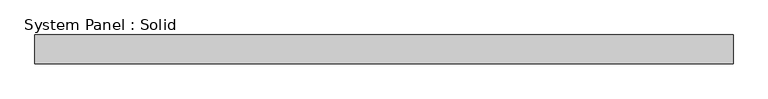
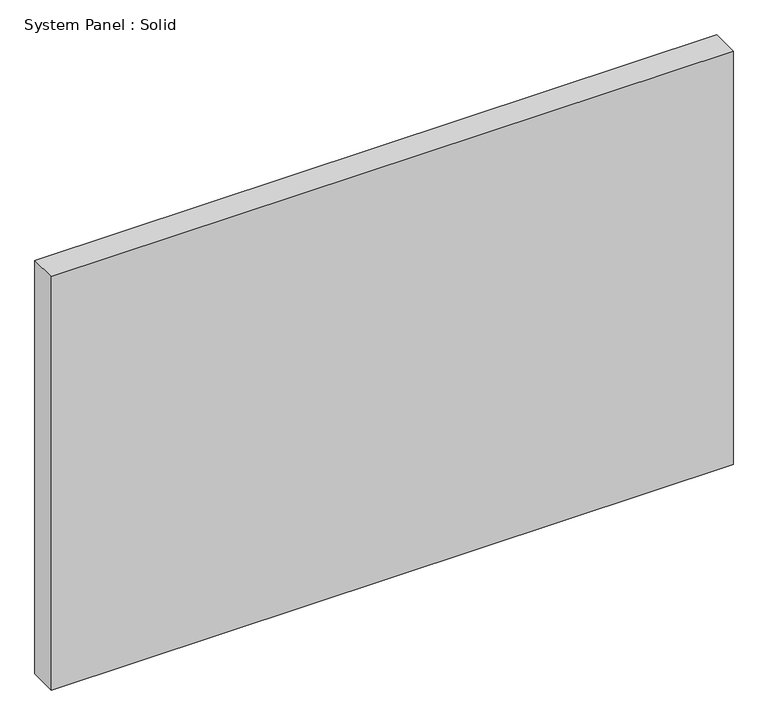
"""IFC4 building model written with IfcOpenShell, lengths in millimetres: plate geometry, System Panel : Solid."""

from ifc_helpers import new_model, si_unit, origin, origin_with_axes, place, context, project, spatial, polyline, outline, extrude, source, transform, mapped, element, save


def system_panel_solid_368a6b70(model_context):
    return source(origin(), model_context, "Body", "SweptSolid", [
        extrude(outline(polyline([(721.2366101, -49.5), (-721.2366101, -49.5), (-721.2366101, 10.5), (721.2366101, 10.5), (721.2366101, -49.5)])), origin_with_axes(), (0.0, 0.0, 1.0), 925.0),
    ])


if __name__ == "__main__":
    model = new_model("IFC4")
    model_context = context("Model", 3, world=origin())
    ifc_project = project(units=[si_unit("LENGTHUNIT", "METRE", prefix="MILLI")], contexts=[model_context])
    site = spatial("IfcSite", under=ifc_project)
    building = spatial("IfcBuilding", under=site)
    placement = place(None, origin())
    system_panel_solid_shape = system_panel_solid_368a6b70(model_context)
    element("IfcPlate", 1, ObjectType="System Panel : Solid", at=placement, inside=building, context=model_context, shape_type="MappedRepresentation", body=[
        mapped(system_panel_solid_shape, transform((0.0, 0.0, 0.0), x_axis=(1.0, 0.0, 0.0), y_axis=(0.0, 1.0, 0.0), z_axis=(0.0, 0.0, 1.0))),
    ])
    save(model, "model.ifc")
